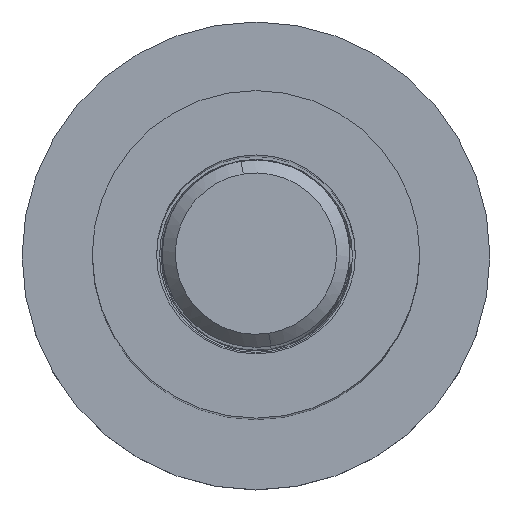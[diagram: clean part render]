
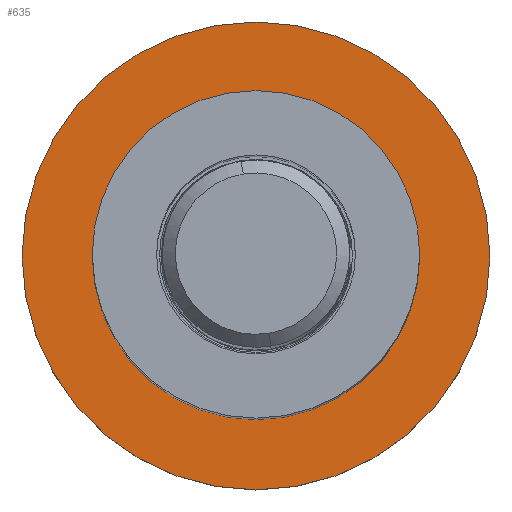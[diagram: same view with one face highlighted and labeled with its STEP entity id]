
A CAD part, top view. The second image highlights one B-rep face of the part: STEP entity #635.
In plain terms, the highlighted planar face has unit normal (0, 0, 1).
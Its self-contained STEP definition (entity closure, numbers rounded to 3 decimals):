
#277=CARTESIAN_POINT('Vertex',(20.,0.,0.)) ;
#280=CARTESIAN_POINT('Axis2P3D Location',(0.,0.,0.)) ;
#284=CARTESIAN_POINT('Vertex',(-20.,0.,0.)) ;
#304=CARTESIAN_POINT('Axis2P3D Location',(0.,0.,0.)) ;
#608=CARTESIAN_POINT('Axis2P3D Location',(0.,0.,0.)) ;
#617=CARTESIAN_POINT('Axis2P3D Location',(0.,0.,0.)) ;
#621=CARTESIAN_POINT('Vertex',(-14.,0.,0.)) ;
#623=CARTESIAN_POINT('Vertex',(14.,0.,0.)) ;
#626=CARTESIAN_POINT('Axis2P3D Location',(0.,0.,0.)) ;
#281=DIRECTION('Axis2P3D Direction',(-0.,0.,-1.)) ;
#305=DIRECTION('Axis2P3D Direction',(-0.,0.,-1.)) ;
#609=DIRECTION('Axis2P3D Direction',(0.,0.,1.)) ;
#610=DIRECTION('Axis2P3D XDirection',(1.,0.,-0.)) ;
#618=DIRECTION('Axis2P3D Direction',(0.,0.,1.)) ;
#627=DIRECTION('Axis2P3D Direction',(0.,0.,1.)) ;
#282=AXIS2_PLACEMENT_3D('Circle Axis2P3D',#280,#281,$) ;
#306=AXIS2_PLACEMENT_3D('Circle Axis2P3D',#304,#305,$) ;
#611=AXIS2_PLACEMENT_3D('Plane Axis2P3D',#608,#609,#610) ;
#619=AXIS2_PLACEMENT_3D('Circle Axis2P3D',#617,#618,$) ;
#628=AXIS2_PLACEMENT_3D('Circle Axis2P3D',#626,#627,$) ;
#614=ORIENTED_EDGE('',*,*,#286,.T.) ;
#615=ORIENTED_EDGE('',*,*,#308,.T.) ;
#632=ORIENTED_EDGE('',*,*,#625,.F.) ;
#633=ORIENTED_EDGE('',*,*,#630,.F.) ;
#634=FACE_BOUND('',#631,.T.) ;
#635=ADVANCED_FACE('Sposta faccia1',(#616,#634),#612,.T.) ;
#283=CIRCLE('generated circle',#282,20.) ;
#307=CIRCLE('generated circle',#306,20.) ;
#620=CIRCLE('generated circle',#619,14.) ;
#629=CIRCLE('generated circle',#628,14.) ;
#286=EDGE_CURVE('',#285,#278,#283,.F.) ;
#308=EDGE_CURVE('',#278,#285,#307,.F.) ;
#625=EDGE_CURVE('',#622,#624,#620,.T.) ;
#630=EDGE_CURVE('',#624,#622,#629,.T.) ;
#613=EDGE_LOOP('',(#614,#615)) ;
#631=EDGE_LOOP('',(#632,#633)) ;
#616=FACE_OUTER_BOUND('',#613,.T.) ;
#612=PLANE('Plane',#611) ;
#278=VERTEX_POINT('',#277) ;
#285=VERTEX_POINT('',#284) ;
#622=VERTEX_POINT('',#621) ;
#624=VERTEX_POINT('',#623) ;
